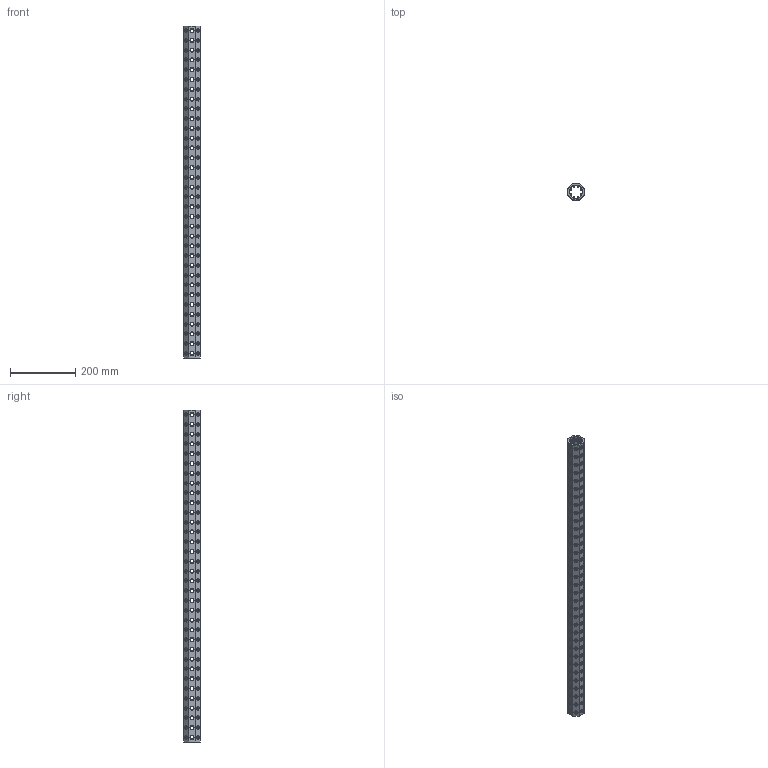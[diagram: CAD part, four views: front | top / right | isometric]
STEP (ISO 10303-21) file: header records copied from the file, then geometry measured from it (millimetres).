
FILE_DESCRIPTION(('CATIA V5 STEP Exchange'),'2;1');
FILE_NAME('U:\Room\唐宝山\EGT002\46-01-010263-01-EGT002-1018.stp','2021-08-24T01:13:23+00:00',('none'),('none'),'CATIA Version 5 Release 21 GA (IN-10)','CATIA V5 STEP AP203','none');
FILE_SCHEMA(('CONFIG_CONTROL_DESIGN'));
Products named in the file (1): 46-01-010263-01-EGT002-1018
Bounding box: 50 x 50 x 1018 mm (x, y, z)
Volume: 725188.8 mm3; surface area: 350508 mm2
Topology: 1 solids, 1 shells, 1444 faces, 3986 edges, 2476 vertices
Faces by surface type: cone 816, cylinder 602, plane 26
Entity records: 58366 total; most frequent: CARTESIAN_POINT 23265, ORIENTED_EDGE 7972, DIRECTION 5672, EDGE_CURVE 3986, AXIS2_PLACEMENT_3D 2671, VERTEX_POINT 2476, EDGE_LOOP 1922, VECTOR 1558
